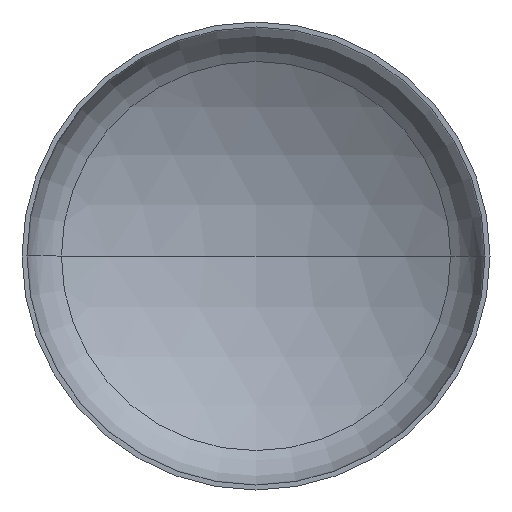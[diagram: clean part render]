
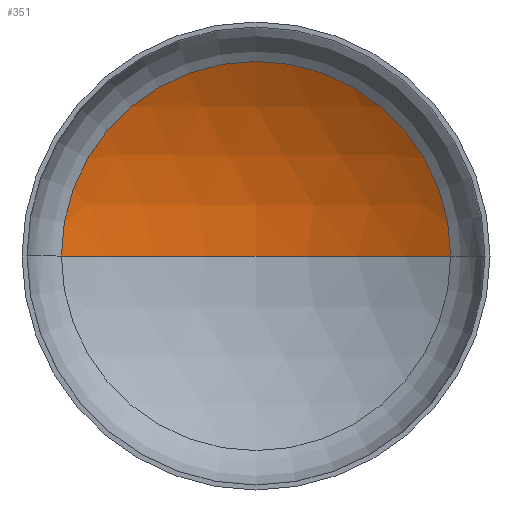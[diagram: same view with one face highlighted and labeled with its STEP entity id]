
A CAD part, front view. The second image highlights one B-rep face of the part: STEP entity #351.
In plain terms, the highlighted spherical face has radius 2560 mm.
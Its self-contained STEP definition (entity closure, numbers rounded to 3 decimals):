
#2 = CARTESIAN_POINT ( 'NONE',  ( 0., 528.599, 0. ) ) ;
#6 = CARTESIAN_POINT ( 'NONE',  ( 0., -1658.368, 0. ) ) ;
#35 = DIRECTION ( 'NONE',  ( -1., 0., 0. ) ) ;
#36 = VERTEX_POINT ( 'NONE', #270 ) ;
#52 = AXIS2_PLACEMENT_3D ( 'NONE', #232, #394, #178 ) ;
#54 = AXIS2_PLACEMENT_3D ( 'NONE', #6, #253, #35 ) ;
#55 = AXIS2_PLACEMENT_3D ( 'NONE', #2, #228, #296 ) ;
#66 = VERTEX_POINT ( 'NONE', #217 ) ;
#111 = ORIENTED_EDGE ( 'NONE', *, *, #116, .F. ) ;
#112 = EDGE_CURVE ( 'NONE', #36, #347, #252, .T. ) ;
#113 = CIRCLE ( 'NONE', #54, 2560. ) ;
#114 = EDGE_CURVE ( 'NONE', #66, #36, #113, .T. ) ;
#115 = ORIENTED_EDGE ( 'NONE', *, *, #112, .T. ) ;
#116 = EDGE_CURVE ( 'NONE', #66, #347, #191, .T. ) ;
#141 = SPHERICAL_SURFACE ( 'NONE', #362, 2560. ) ;
#144 = DIRECTION ( 'NONE',  ( -1., 0., 0. ) ) ;
#150 = FACE_OUTER_BOUND ( 'NONE', #231, .T. ) ;
#168 = DIRECTION ( 'NONE',  ( 0., 0., -1. ) ) ;
#171 = CARTESIAN_POINT ( 'NONE',  ( 0., -1658.368, 0. ) ) ;
#178 = DIRECTION ( 'NONE',  ( 1., 0., 0. ) ) ;
#191 = CIRCLE ( 'NONE', #52, 2560. ) ;
#217 = CARTESIAN_POINT ( 'NONE',  ( 0., 901.632, 0. ) ) ;
#228 = DIRECTION ( 'NONE',  ( 0., -1., 0. ) ) ;
#231 = EDGE_LOOP ( 'NONE', ( #111, #355, #115 ) ) ;
#232 = CARTESIAN_POINT ( 'NONE',  ( 0., -1658.368, 0. ) ) ;
#252 = CIRCLE ( 'NONE', #55, 1330.705 ) ;
#253 = DIRECTION ( 'NONE',  ( 0., 0., -1. ) ) ;
#270 = CARTESIAN_POINT ( 'NONE',  ( 1330.705, 528.599, 0. ) ) ;
#296 = DIRECTION ( 'NONE',  ( 1., 0., 0. ) ) ;
#347 = VERTEX_POINT ( 'NONE', #353 ) ;
#351 = ADVANCED_FACE ( 'NONE', ( #150 ), #141, .F. ) ;
#353 = CARTESIAN_POINT ( 'NONE',  ( -1330.705, 528.599, 0. ) ) ;
#355 = ORIENTED_EDGE ( 'NONE', *, *, #114, .T. ) ;
#362 = AXIS2_PLACEMENT_3D ( 'NONE', #171, #168, #144 ) ;
#394 = DIRECTION ( 'NONE',  ( 0., 0., 1. ) ) ;
